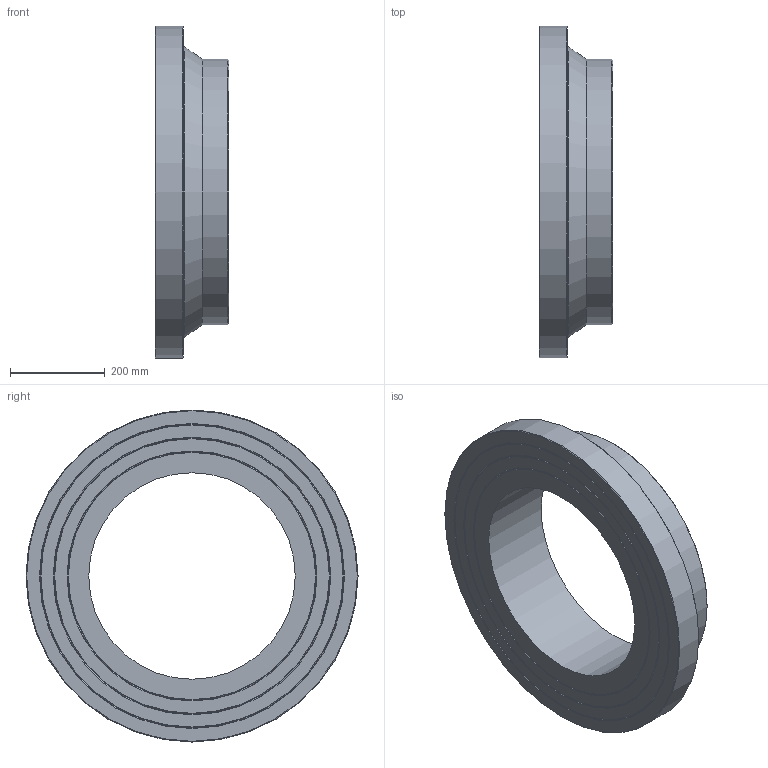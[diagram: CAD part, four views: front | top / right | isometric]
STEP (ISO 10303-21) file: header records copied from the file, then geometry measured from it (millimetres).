
FILE_DESCRIPTION(/* description */ ('Unknown'),/* implementation_level */ '2;1');
FILE_NAME(/* name */ 'CCP560C',/* time_stamp */ '2022-04-04T15:26:23+02:00',/* author */ ('Unknown'),/* organization */ ('Unknown'),/* preprocessor_version */ 'ST-DEVELOPER v18.1',/* originating_system */ 'Solid Edge',/* authorisation */ 'Unknown');
FILE_SCHEMA (('AUTOMOTIVE_DESIGN {1 0 10303 214 3 1 1}'));
Length unit declared in the file: millimetre
Products named in the file (1): CCP560C
Bounding box: 156 x 700 x 700 mm (x, y, z)
Volume: 24491408.4 mm3; surface area: 951127.1 mm2
Topology: 1 solids, 1 shells, 20 faces, 35 edges, 21 vertices
Faces by surface type: cone 10, plane 6, cylinder 3, torus 1
Full cylindrical faces by diameter (mm): 435.4 x1, 560 x1, 700 x1
Entity records: 438 total; most frequent: DIRECTION 82, CARTESIAN_POINT 61, AXIS2_PLACEMENT_3D 41, ORIENTED_EDGE 40, EDGE_LOOP 40, FACE_BOUND 40, EDGE_CURVE 20, VERTEX_POINT 20
